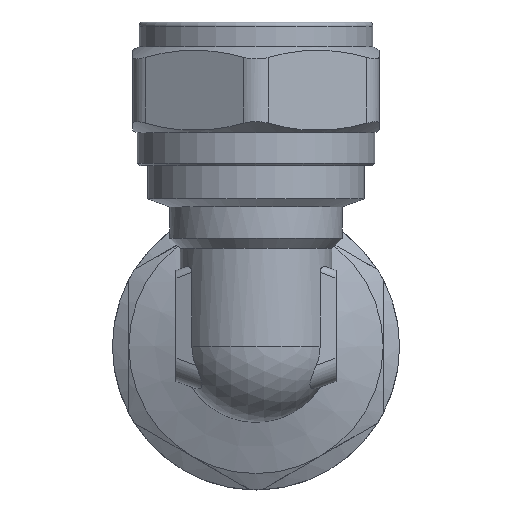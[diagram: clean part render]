
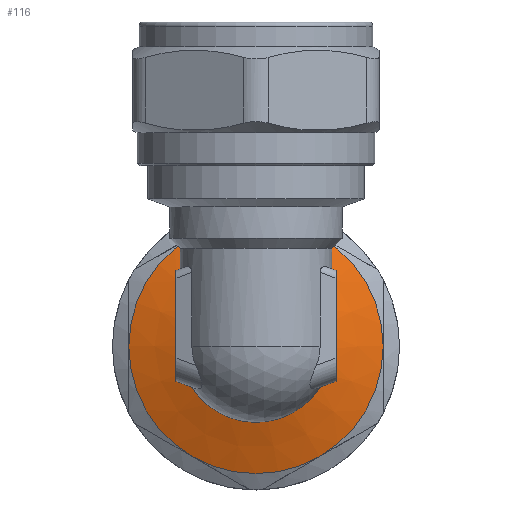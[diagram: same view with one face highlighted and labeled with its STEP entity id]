
A CAD part, front view. The second image highlights one B-rep face of the part: STEP entity #116.
In plain terms, the highlighted conical face has half-angle 70 degrees and reference radius 12.375 mm.
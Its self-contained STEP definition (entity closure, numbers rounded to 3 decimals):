
#116=ADVANCED_FACE('',(#1010,#1012),#1014,.T.);
#1010=FACE_BOUND('',#1011,.T.);
#1011=EDGE_LOOP('',(#4099,#4100,#4101,#4102,#4103));
#1012=FACE_OUTER_BOUND('',#1013,.T.);
#1013=EDGE_LOOP('',(#4104));
#1014=CONICAL_SURFACE('',#1015,12.375,1.222);
#1015=AXIS2_PLACEMENT_3D('',#1016,#1017,#1018);
#1016=CARTESIAN_POINT('',(0.,11.863,0.));
#1017=DIRECTION('',(0.,1.,0.));
#1018=DIRECTION('',(-1.,0.,0.));
#4099=ORIENTED_EDGE('',*,*,#7026,.T.);
#4100=ORIENTED_EDGE('',*,*,#7027,.T.);
#4101=ORIENTED_EDGE('',*,*,#7028,.F.);
#4102=ORIENTED_EDGE('',*,*,#7017,.F.);
#4103=ORIENTED_EDGE('',*,*,#7029,.F.);
#4104=ORIENTED_EDGE('',*,*,#7030,.T.);
#7017=EDGE_CURVE('',#8365,#8366,#8367,.F.);
#7026=EDGE_CURVE('',#8381,#8382,#8383,.T.);
#7027=EDGE_CURVE('',#8382,#8384,#8385,.T.);
#7028=EDGE_CURVE('',#8366,#8384,#8386,.F.);
#7029=EDGE_CURVE('',#8381,#8365,#8387,.F.);
#7030=EDGE_CURVE('',#8388,#8388,#8389,.F.);
#8365=VERTEX_POINT('',#11150);
#8366=VERTEX_POINT('',#11151);
#8367=B_SPLINE_CURVE_WITH_KNOTS('',3,
(#11152,#11153,#11154,#11155,#11156,#11157,#11158),
.UNSPECIFIED.,.F.,.F.,
(4,1,1,1,4),
(0.,0.25,0.5,0.75,1.),
.UNSPECIFIED.);
#8381=VERTEX_POINT('',#11208);
#8382=VERTEX_POINT('',#11209);
#8383=CIRCLE('',#11210,9.25);
#8384=VERTEX_POINT('',#11214);
#8385=CIRCLE('',#11215,9.25);
#8386=B_SPLINE_CURVE_WITH_KNOTS('',3,
(#11219,#11220,#11221,#11222,#11223,#11224,#11225,#11226,#11227,#11228,#11229,#11230,
#11231,#11232,#11233,#11234,#11235,#11236,#11237,#11238,#11239,#11240,#11241,#11242,
#11243,#11244,#11245,#11246,#11247,#11248),
.UNSPECIFIED.,.F.,.F.,
(4,1,1,1,1,1,1,1,1,1,1,1,1,1,1,1,1,1,1,1,1,1,1,1,1,1,1,4),
(0.,0.047,0.093,0.139,0.185,0.23,
0.273,0.316,0.357,0.398,0.437,
0.474,0.509,0.544,0.576,0.607,
0.645,0.684,0.725,0.767,0.817,
0.864,0.897,0.918,0.938,0.959,
0.98,1.),
.UNSPECIFIED.);
#8387=B_SPLINE_CURVE_WITH_KNOTS('',3,
(#11249,#11250,#11251,#11252,#11253,#11254,#11255,#11256,#11257,#11258,#11259,#11260,
#11261,#11262,#11263,#11264,#11265,#11266,#11267,#11268,#11269,#11270,#11271,#11272,
#11273,#11274),
.UNSPECIFIED.,.F.,.F.,
(4,1,1,1,1,1,1,1,1,1,1,1,1,1,1,1,1,1,1,1,1,1,1,4),
(0.,0.045,0.109,0.197,0.303,0.398,
0.473,0.525,0.561,0.588,0.616,
0.644,0.672,0.701,0.73,0.76,
0.789,0.819,0.849,0.879,0.909,
0.939,0.97,1.),
.UNSPECIFIED.);
#8388=VERTEX_POINT('',#11275);
#8389=CIRCLE('',#11276,15.5);
#11150=CARTESIAN_POINT('',(1.5,12.194,13.2));
#11151=CARTESIAN_POINT('',(-1.5,12.194,13.2));
#11152=CARTESIAN_POINT('',(-1.5,12.194,13.2));
#11153=CARTESIAN_POINT('',(-1.25,12.184,13.2));
#11154=CARTESIAN_POINT('',(-0.75,12.168,13.2));
#11155=CARTESIAN_POINT('',(0.,12.16,13.2));
#11156=CARTESIAN_POINT('',(0.75,12.168,13.2));
#11157=CARTESIAN_POINT('',(1.25,12.184,13.2));
#11158=CARTESIAN_POINT('',(1.5,12.194,13.2));
#11208=CARTESIAN_POINT('',(7.324,10.725,5.65));
#11209=CARTESIAN_POINT('',(-9.25,10.725,0.));
#11210=AXIS2_PLACEMENT_3D('',#11211,#11212,#11213);
#11211=CARTESIAN_POINT('',(0.,10.725,0.));
#11212=DIRECTION('',(0.,1.,0.));
#11213=DIRECTION('',(0.792,0.,0.611));
#11214=CARTESIAN_POINT('',(-7.324,10.725,5.65));
#11215=AXIS2_PLACEMENT_3D('',#11216,#11217,#11218);
#11216=CARTESIAN_POINT('',(0.,10.725,0.));
#11217=DIRECTION('',(0.,1.,0.));
#11218=DIRECTION('',(-1.,0.,0.));
#11219=CARTESIAN_POINT('',(-7.324,10.725,5.65));
#11220=CARTESIAN_POINT('',(-7.232,10.725,5.769));
#11221=CARTESIAN_POINT('',(-7.049,10.728,6.007));
#11222=CARTESIAN_POINT('',(-6.774,10.74,6.363));
#11223=CARTESIAN_POINT('',(-6.502,10.759,6.716));
#11224=CARTESIAN_POINT('',(-6.233,10.786,7.065));
#11225=CARTESIAN_POINT('',(-5.97,10.82,7.406));
#11226=CARTESIAN_POINT('',(-5.713,10.858,7.739));
#11227=CARTESIAN_POINT('',(-5.463,10.902,8.062));
#11228=CARTESIAN_POINT('',(-5.22,10.95,8.377));
#11229=CARTESIAN_POINT('',(-4.984,11.002,8.683));
#11230=CARTESIAN_POINT('',(-4.756,11.056,8.979));
#11231=CARTESIAN_POINT('',(-4.539,11.111,9.26));
#11232=CARTESIAN_POINT('',(-4.331,11.168,9.53));
#11233=CARTESIAN_POINT('',(-4.134,11.224,9.785));
#11234=CARTESIAN_POINT('',(-3.946,11.281,10.029));
#11235=CARTESIAN_POINT('',(-3.75,11.342,10.283));
#11236=CARTESIAN_POINT('',(-3.541,11.41,10.554));
#11237=CARTESIAN_POINT('',(-3.313,11.487,10.849));
#11238=CARTESIAN_POINT('',(-3.079,11.569,11.153));
#11239=CARTESIAN_POINT('',(-2.823,11.662,11.485));
#11240=CARTESIAN_POINT('',(-2.556,11.763,11.831));
#11241=CARTESIAN_POINT('',(-2.307,11.861,12.154));
#11242=CARTESIAN_POINT('',(-2.114,11.938,12.404));
#11243=CARTESIAN_POINT('',(-1.971,11.996,12.589));
#11244=CARTESIAN_POINT('',(-1.852,12.045,12.743));
#11245=CARTESIAN_POINT('',(-1.734,12.094,12.896));
#11246=CARTESIAN_POINT('',(-1.617,12.144,13.048));
#11247=CARTESIAN_POINT('',(-1.539,12.177,13.15));
#11248=CARTESIAN_POINT('',(-1.5,12.194,13.2));
#11249=CARTESIAN_POINT('',(1.5,12.194,13.2));
#11250=CARTESIAN_POINT('',(1.586,12.157,13.089));
#11251=CARTESIAN_POINT('',(1.794,12.069,12.818));
#11252=CARTESIAN_POINT('',(2.171,11.914,12.33));
#11253=CARTESIAN_POINT('',(2.665,11.72,11.69));
#11254=CARTESIAN_POINT('',(3.22,11.517,10.971));
#11255=CARTESIAN_POINT('',(3.752,11.339,10.28));
#11256=CARTESIAN_POINT('',(4.183,11.209,9.722));
#11257=CARTESIAN_POINT('',(4.499,11.122,9.313));
#11258=CARTESIAN_POINT('',(4.722,11.065,9.023));
#11259=CARTESIAN_POINT('',(4.899,11.022,8.793));
#11260=CARTESIAN_POINT('',(5.062,10.985,8.582));
#11261=CARTESIAN_POINT('',(5.227,10.949,8.369));
#11262=CARTESIAN_POINT('',(5.394,10.916,8.152));
#11263=CARTESIAN_POINT('',(5.563,10.885,7.933));
#11264=CARTESIAN_POINT('',(5.734,10.856,7.711));
#11265=CARTESIAN_POINT('',(5.906,10.829,7.488));
#11266=CARTESIAN_POINT('',(6.081,10.805,7.262));
#11267=CARTESIAN_POINT('',(6.256,10.784,7.035));
#11268=CARTESIAN_POINT('',(6.432,10.766,6.806));
#11269=CARTESIAN_POINT('',(6.609,10.752,6.577));
#11270=CARTESIAN_POINT('',(6.787,10.74,6.347));
#11271=CARTESIAN_POINT('',(6.965,10.731,6.115));
#11272=CARTESIAN_POINT('',(7.144,10.726,5.883));
#11273=CARTESIAN_POINT('',(7.264,10.725,5.728));
#11274=CARTESIAN_POINT('',(7.324,10.725,5.65));
#11275=CARTESIAN_POINT('',(-15.5,13.,0.));
#11276=AXIS2_PLACEMENT_3D('',#11277,#11278,#11279);
#11277=CARTESIAN_POINT('',(0.,13.,0.));
#11278=DIRECTION('',(0.,1.,0.));
#11279=DIRECTION('',(-1.,0.,0.));
